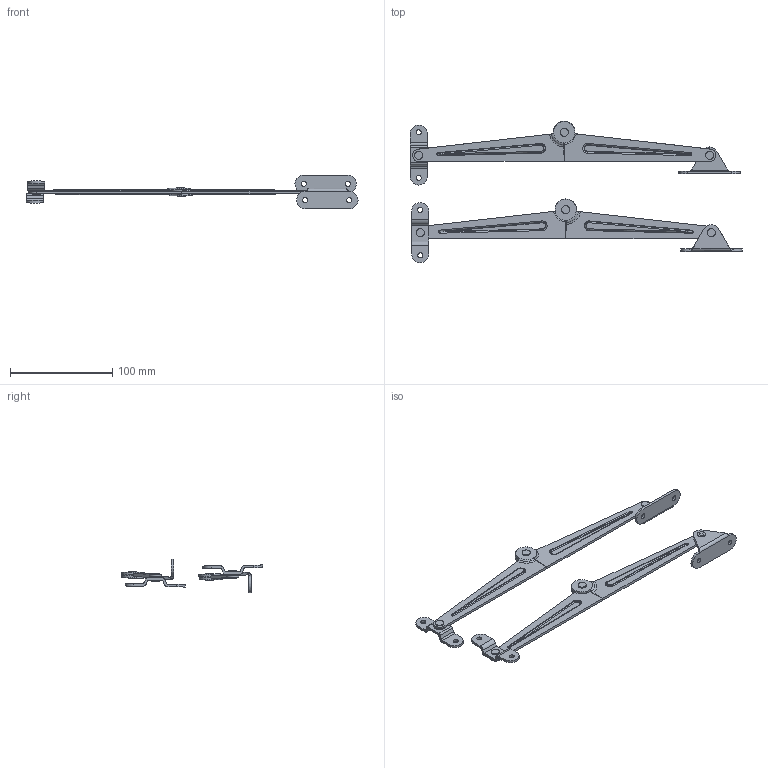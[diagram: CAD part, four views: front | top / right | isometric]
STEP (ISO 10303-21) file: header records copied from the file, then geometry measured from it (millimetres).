
FILE_DESCRIPTION(/* description */ (''),/* implementation_level */ '2;1');
FILE_NAME(/* name */ '\\Nas\db20\SY-6\DR_SY-6.stp',/* time_stamp */ '2018-03-09T17:32:09+09:00',/* author */ ('user'),/* organization */ (''),/* preprocessor_version */ 'ST-DEVELOPER v15.6',/* originating_system */ 'Autodesk Inventor 2015',/* authorisation */ '');
FILE_SCHEMA (('AUTOMOTIVE_DESIGN { 1 0 10303 214 3 1 1 }'));
Length unit declared in the file: millimetre
Products named in the file (11): DR_SY-6_BR_LEFT; DR_SY-6_BR2_LEFT; DR_SY-6_PLATE1_LEFT; DR_SY-6_PLATE2_LEFT; DR_SY-6_LEFT; DR_SY-6_BR_RIGHT; DR_SY-6_BR2_RIGHT; DR_SY-6_PLATE1_RIGHT; DR_SY-6_PLATE2_RIGHT; DR_SY-6_RIGHT; DR_SY-6
Bounding box: 324.03 x 137.84 x 32.94 mm (x, y, z)
Volume: 45335.3 mm3; surface area: 44038.5 mm2
Topology: 16 solids, 16 shells, 286 faces, 668 edges, 418 vertices
Faces by surface type: cylinder 116, plane 106, bspline 32, torus 32
Full cylindrical faces by diameter (mm): 4 x18, 5 x10, 8 x12, 11 x2
Entity records: 10989 total; most frequent: CARTESIAN_POINT 4283, DIRECTION 1326, ORIENTED_EDGE 1184, EDGE_CURVE 592, AXIS2_PLACEMENT_3D 551, VERTEX_POINT 404, EDGE_LOOP 396, FACE_OUTER_BOUND 286
